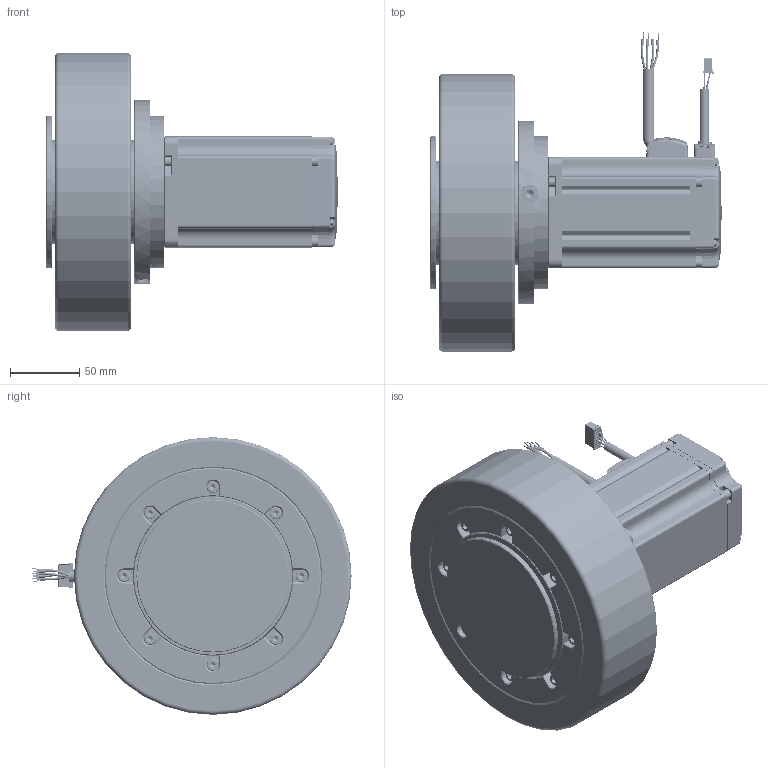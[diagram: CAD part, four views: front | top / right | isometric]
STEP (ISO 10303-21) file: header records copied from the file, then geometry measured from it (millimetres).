
FILE_DESCRIPTION((''),'2;1');
FILE_NAME('MSD200--100-30GSL-N_ASM','2026-06-03T09:22:57',('MS28159'),(''),'CREO PARAMETRIC BY PTC INC, 2018100','CREO PARAMETRIC BY PTC INC, 2018100','');
FILE_SCHEMA(('CONFIG_CONTROL_DESIGN'));
Products named in the file (11): HEX_SOCKET_SET_SCREWS_WITH_FLAT; SINGLE_COIL_LOCK_WASHERS_LIGHT_; HEXAGON_SOCKET_HEAD_CAP_SC-4695; AEQ-115-H55-W200_1; HEXAGON_SOCKET_HEAD_CAP_SC-1787; 090-19_X2_8F7495017D275957_X0_J; AEQ-115N-L2-19-1_X2_FF08_X0_19-; AEQ-115N-032-10-19-1-H55-W200_1_ASM; AEQ-115N-032-10-19-1-H55-W200_A_ASM; SM0804GSL-KCY-NNV_ASM; MSD200--100-30GSL-N_ASM
Assembly tree (25 placements, depth 4):
  MSD200--100-30GSL-N_ASM
    AEQ-115N-032-10-19-1-H55-W200_A_ASM
      AEQ-115N-032-10-19-1-H55-W200_1_ASM
        HEX_SOCKET_SET_SCREWS_WITH_FLAT  x2
        SINGLE_COIL_LOCK_WASHERS_LIGHT_  x8
        HEXAGON_SOCKET_HEAD_CAP_SC-4695  x8
        AEQ-115-H55-W200_1
        HEXAGON_SOCKET_HEAD_CAP_SC-1787
        090-19_X2_8F7495017D275957_X0_J
        AEQ-115N-L2-19-1_X2_FF08_X0_19-
    SM0804GSL-KCY-NNV_ASM
Bounding box: 209.8 x 229.93 x 200 mm (x, y, z)
Volume: 1985600.3 mm3; surface area: 290367 mm2
Topology: 22 solids, 68 shells, 3898 faces, 9339 edges, 5432 vertices
Faces by surface type: cone 1596, cylinder 1145, plane 887, torus 112, bspline 107, sphere 41, extrusion 10
Entity records: 71913 total; most frequent: CARTESIAN_POINT 24427, DIRECTION 9876, ORIENTED_EDGE 9323, EDGE_CURVE 5174, AXIS2_PLACEMENT_3D 3492, VERTEX_POINT 3310, VECTOR 2892, LINE 2882
